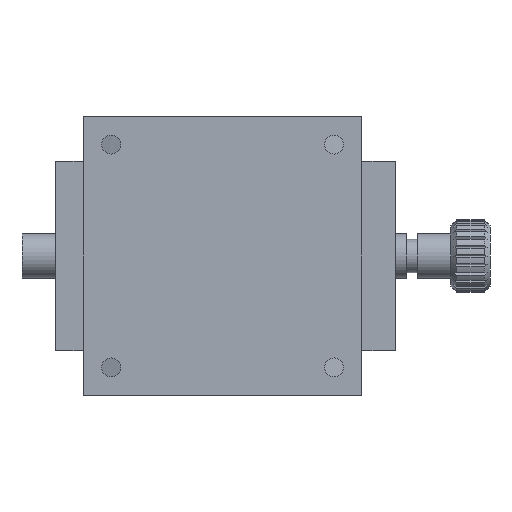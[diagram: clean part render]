
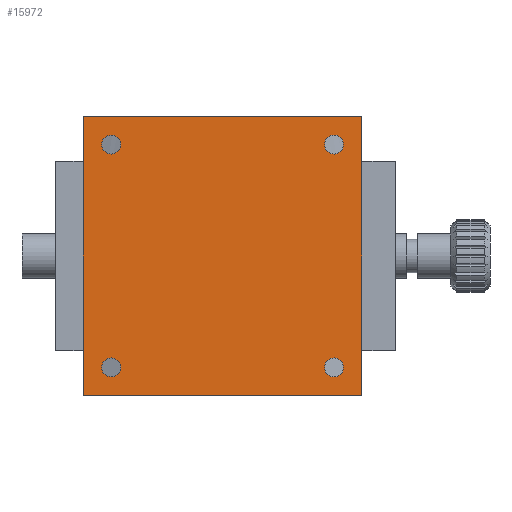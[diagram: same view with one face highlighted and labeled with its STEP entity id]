
A CAD part, front view. The second image highlights one B-rep face of the part: STEP entity #15972.
In plain terms, the highlighted planar face has unit normal (0, -1, 0).
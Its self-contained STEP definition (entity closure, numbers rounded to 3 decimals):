
#165 = CARTESIAN_POINT ( 'NONE',  ( 25., 0., -25. ) ) ;
#288 = PLANE ( 'NONE',  #14707 ) ;
#484 = CARTESIAN_POINT ( 'NONE',  ( -20., 0., 18.3 ) ) ;
#516 = EDGE_LOOP ( 'NONE', ( #26543, #18358 ) ) ;
#901 = CARTESIAN_POINT ( 'NONE',  ( 20., 0., -20. ) ) ;
#1001 = VERTEX_POINT ( 'NONE', #16692 ) ;
#1051 = EDGE_CURVE ( 'NONE', #7666, #18351, #17380, .T. ) ;
#1265 = DIRECTION ( 'NONE',  ( 0., 0., -1. ) ) ;
#1268 = CARTESIAN_POINT ( 'NONE',  ( -20., 0., 20. ) ) ;
#2274 = CARTESIAN_POINT ( 'NONE',  ( 20., 0., -20. ) ) ;
#3085 = AXIS2_PLACEMENT_3D ( 'NONE', #16981, #11168, #25671 ) ;
#3501 = CARTESIAN_POINT ( 'NONE',  ( 20., 0., 20. ) ) ;
#3507 = VERTEX_POINT ( 'NONE', #4076 ) ;
#3547 = ORIENTED_EDGE ( 'NONE', *, *, #10250, .T. ) ;
#3733 = DIRECTION ( 'NONE',  ( 0., 0., 1. ) ) ;
#3865 = CIRCLE ( 'NONE', #10936, 1.7 ) ;
#4076 = CARTESIAN_POINT ( 'NONE',  ( 25., 0., 25. ) ) ;
#4147 = DIRECTION ( 'NONE',  ( 1., 0., 0. ) ) ;
#4398 = EDGE_LOOP ( 'NONE', ( #20888, #26744 ) ) ;
#4530 = VECTOR ( 'NONE', #1265, 1000. ) ;
#4593 = VERTEX_POINT ( 'NONE', #17629 ) ;
#4614 = CARTESIAN_POINT ( 'NONE',  ( -20., 0., 20. ) ) ;
#4950 = EDGE_CURVE ( 'NONE', #24855, #1001, #6044, .T. ) ;
#4957 = FACE_BOUND ( 'NONE', #516, .T. ) ;
#5475 = LINE ( 'NONE', #26345, #4530 ) ;
#5945 = CIRCLE ( 'NONE', #17036, 1.7 ) ;
#6044 = CIRCLE ( 'NONE', #3085, 1.7 ) ;
#6181 = EDGE_CURVE ( 'NONE', #15211, #4593, #10539, .T. ) ;
#6376 = AXIS2_PLACEMENT_3D ( 'NONE', #12263, #7744, #3733 ) ;
#6578 = CIRCLE ( 'NONE', #23463, 1.7 ) ;
#6592 = DIRECTION ( 'NONE',  ( 0., 0., 1. ) ) ;
#6611 = AXIS2_PLACEMENT_3D ( 'NONE', #3501, #22009, #16012 ) ;
#6727 = CARTESIAN_POINT ( 'NONE',  ( -25., 0., -25. ) ) ;
#6782 = LINE ( 'NONE', #25060, #23994 ) ;
#7342 = LINE ( 'NONE', #6727, #26152 ) ;
#7407 = DIRECTION ( 'NONE',  ( 0., 0., 1. ) ) ;
#7666 = VERTEX_POINT ( 'NONE', #484 ) ;
#7744 = DIRECTION ( 'NONE',  ( 0., 1., 0. ) ) ;
#7902 = FACE_BOUND ( 'NONE', #15715, .T. ) ;
#8217 = CARTESIAN_POINT ( 'NONE',  ( 20., 0., -21.7 ) ) ;
#8352 = DIRECTION ( 'NONE',  ( 0., 1., 0. ) ) ;
#8485 = CARTESIAN_POINT ( 'NONE',  ( -20., 0., 21.7 ) ) ;
#8524 = DIRECTION ( 'NONE',  ( 0., 0., 1. ) ) ;
#8692 = DIRECTION ( 'NONE',  ( 0., -1., 0. ) ) ;
#8737 = DIRECTION ( 'NONE',  ( -1., 0., 0. ) ) ;
#8867 = CARTESIAN_POINT ( 'NONE',  ( -25., 0., 25. ) ) ;
#9213 = VECTOR ( 'NONE', #6592, 1000. ) ;
#9369 = EDGE_CURVE ( 'NONE', #4593, #15211, #9730, .T. ) ;
#9557 = AXIS2_PLACEMENT_3D ( 'NONE', #4614, #19204, #8524 ) ;
#9596 = DIRECTION ( 'NONE',  ( 0., 0., 1. ) ) ;
#9730 = CIRCLE ( 'NONE', #6611, 1.7 ) ;
#9799 = FACE_BOUND ( 'NONE', #16337, .T. ) ;
#10250 = EDGE_CURVE ( 'NONE', #18351, #7666, #21348, .T. ) ;
#10539 = CIRCLE ( 'NONE', #6376, 1.7 ) ;
#10680 = CARTESIAN_POINT ( 'NONE',  ( 0., 0., 0. ) ) ;
#10936 = AXIS2_PLACEMENT_3D ( 'NONE', #2274, #8352, #18662 ) ;
#11037 = EDGE_CURVE ( 'NONE', #3507, #23856, #5475, .T. ) ;
#11108 = EDGE_CURVE ( 'NONE', #16135, #3507, #6782, .T. ) ;
#11168 = DIRECTION ( 'NONE',  ( 0., 1., 0. ) ) ;
#11503 = CARTESIAN_POINT ( 'NONE',  ( -20., 0., -20. ) ) ;
#11706 = VERTEX_POINT ( 'NONE', #13445 ) ;
#12263 = CARTESIAN_POINT ( 'NONE',  ( 20., 0., 20. ) ) ;
#13410 = FACE_BOUND ( 'NONE', #4398, .T. ) ;
#13445 = CARTESIAN_POINT ( 'NONE',  ( -25., 0., -25. ) ) ;
#14707 = AXIS2_PLACEMENT_3D ( 'NONE', #10680, #8692, #23190 ) ;
#15211 = VERTEX_POINT ( 'NONE', #15569 ) ;
#15289 = CARTESIAN_POINT ( 'NONE',  ( -25., 0., 25. ) ) ;
#15380 = DIRECTION ( 'NONE',  ( 0., 1., 0. ) ) ;
#15569 = CARTESIAN_POINT ( 'NONE',  ( 20., 0., 18.3 ) ) ;
#15623 = LINE ( 'NONE', #15289, #9213 ) ;
#15700 = DIRECTION ( 'NONE',  ( 0., 0., 1. ) ) ;
#15715 = EDGE_LOOP ( 'NONE', ( #3547, #18096 ) ) ;
#15972 = ADVANCED_FACE ( 'NONE', ( #9799, #4957, #18898, #13410, #7902 ), #288, .T. ) ;
#16012 = DIRECTION ( 'NONE',  ( 0., 0., 1. ) ) ;
#16135 = VERTEX_POINT ( 'NONE', #8867 ) ;
#16268 = CARTESIAN_POINT ( 'NONE',  ( 20., 0., -18.3 ) ) ;
#16337 = EDGE_LOOP ( 'NONE', ( #25537, #19742 ) ) ;
#16692 = CARTESIAN_POINT ( 'NONE',  ( -20., 0., -18.3 ) ) ;
#16981 = CARTESIAN_POINT ( 'NONE',  ( -20., 0., -20. ) ) ;
#17036 = AXIS2_PLACEMENT_3D ( 'NONE', #11503, #26022, #15700 ) ;
#17367 = ORIENTED_EDGE ( 'NONE', *, *, #25749, .F. ) ;
#17380 = CIRCLE ( 'NONE', #9557, 1.7 ) ;
#17629 = CARTESIAN_POINT ( 'NONE',  ( 20., 0., 21.7 ) ) ;
#18096 = ORIENTED_EDGE ( 'NONE', *, *, #1051, .T. ) ;
#18100 = AXIS2_PLACEMENT_3D ( 'NONE', #1268, #19844, #9596 ) ;
#18351 = VERTEX_POINT ( 'NONE', #8485 ) ;
#18358 = ORIENTED_EDGE ( 'NONE', *, *, #6181, .T. ) ;
#18662 = DIRECTION ( 'NONE',  ( 0., 0., 1. ) ) ;
#18898 = FACE_OUTER_BOUND ( 'NONE', #20915, .T. ) ;
#19204 = DIRECTION ( 'NONE',  ( 0., 1., 0. ) ) ;
#19253 = EDGE_CURVE ( 'NONE', #20875, #25975, #3865, .T. ) ;
#19742 = ORIENTED_EDGE ( 'NONE', *, *, #23610, .T. ) ;
#19844 = DIRECTION ( 'NONE',  ( 0., 1., 0. ) ) ;
#20875 = VERTEX_POINT ( 'NONE', #16268 ) ;
#20888 = ORIENTED_EDGE ( 'NONE', *, *, #23118, .T. ) ;
#20915 = EDGE_LOOP ( 'NONE', ( #25526, #25575, #17367, #25019 ) ) ;
#20968 = EDGE_CURVE ( 'NONE', #23856, #11706, #7342, .T. ) ;
#21348 = CIRCLE ( 'NONE', #18100, 1.7 ) ;
#22009 = DIRECTION ( 'NONE',  ( 0., 1., 0. ) ) ;
#23118 = EDGE_CURVE ( 'NONE', #1001, #24855, #5945, .T. ) ;
#23190 = DIRECTION ( 'NONE',  ( 0., 0., -1. ) ) ;
#23463 = AXIS2_PLACEMENT_3D ( 'NONE', #901, #15380, #7407 ) ;
#23610 = EDGE_CURVE ( 'NONE', #25975, #20875, #6578, .T. ) ;
#23856 = VERTEX_POINT ( 'NONE', #165 ) ;
#23994 = VECTOR ( 'NONE', #4147, 1000. ) ;
#24855 = VERTEX_POINT ( 'NONE', #25535 ) ;
#25019 = ORIENTED_EDGE ( 'NONE', *, *, #20968, .F. ) ;
#25060 = CARTESIAN_POINT ( 'NONE',  ( -25., 0., 25. ) ) ;
#25526 = ORIENTED_EDGE ( 'NONE', *, *, #11037, .F. ) ;
#25535 = CARTESIAN_POINT ( 'NONE',  ( -20., 0., -21.7 ) ) ;
#25537 = ORIENTED_EDGE ( 'NONE', *, *, #19253, .T. ) ;
#25575 = ORIENTED_EDGE ( 'NONE', *, *, #11108, .F. ) ;
#25671 = DIRECTION ( 'NONE',  ( 0., 0., 1. ) ) ;
#25749 = EDGE_CURVE ( 'NONE', #11706, #16135, #15623, .T. ) ;
#25975 = VERTEX_POINT ( 'NONE', #8217 ) ;
#26022 = DIRECTION ( 'NONE',  ( 0., 1., 0. ) ) ;
#26152 = VECTOR ( 'NONE', #8737, 1000. ) ;
#26345 = CARTESIAN_POINT ( 'NONE',  ( 25., 0., 25. ) ) ;
#26543 = ORIENTED_EDGE ( 'NONE', *, *, #9369, .T. ) ;
#26744 = ORIENTED_EDGE ( 'NONE', *, *, #4950, .T. ) ;
